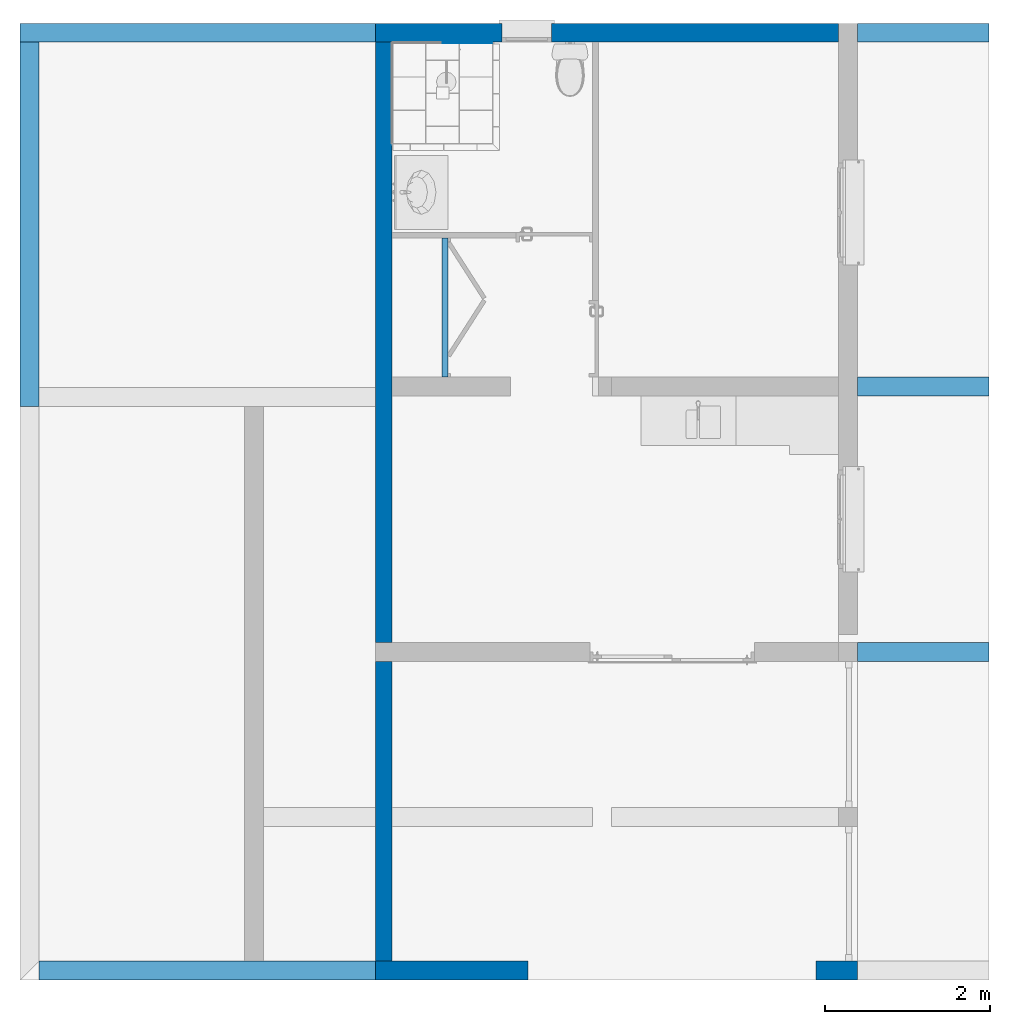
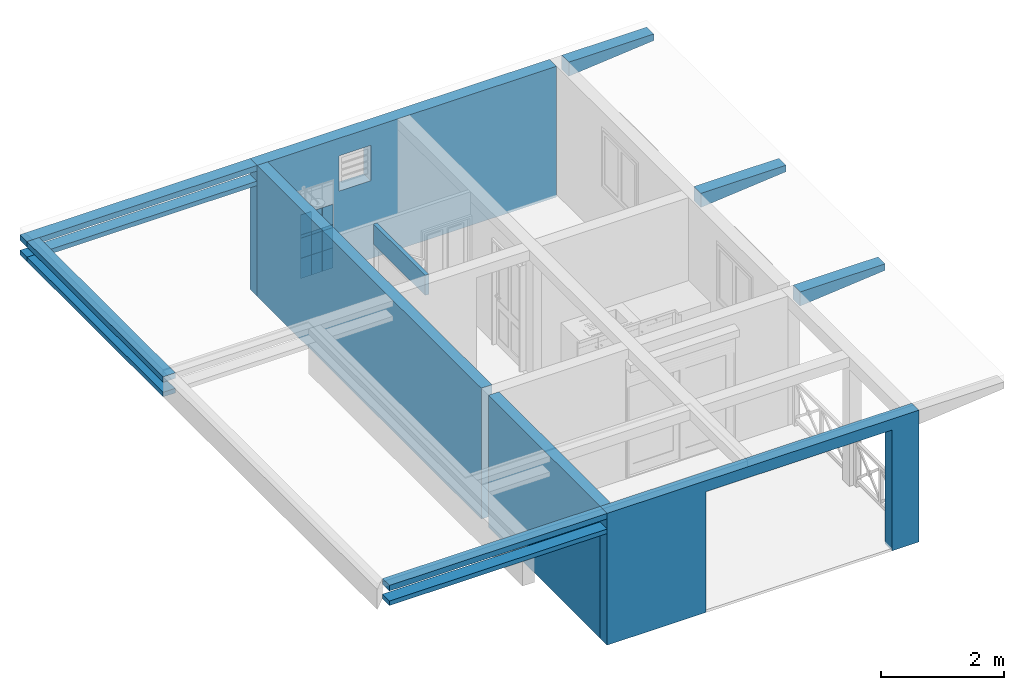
# One storey, part 5 of 13: 23 walls, 3 openings.
"""IFC2X3 building model written with IfcOpenShell, lengths in metres."""

from ifc_helpers import new_model, entity, si_unit, converted_unit, derived_unit, money_unit, direction, frame, origin_with_axes, origin_2d_with_axis, place, context, subcontext, project, spatial, polyline, rectangle, outline, extrude, boolean, clip, halfspace, faceted_brep, material, layer, layer_set, layer_usage, type_object, element, save


model = new_model("IFC2X3")

# Units and contexts
model_context = context("Model", 3, precision=1e-05, world=origin_with_axes(), true_north=direction((0.0, 1.0)))
body_context = subcontext(model_context, "Body", "Model", "MODEL_VIEW")
ifc_project = project(units=[si_unit("LENGTHUNIT", "METRE"), si_unit("AREAUNIT", "SQUARE_METRE"), si_unit("VOLUMEUNIT", "CUBIC_METRE"), converted_unit("PLANEANGLEUNIT", "DEGREE", entity("IfcPlaneAngleMeasure", 0.0174532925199), si_unit("PLANEANGLEUNIT", "RADIAN"), dimensions=[0, 0, 0, 0, 0, 0, 0]), si_unit("SOLIDANGLEUNIT", "STERADIAN"), money_unit("CHF"), converted_unit("TIMEUNIT", "Year", entity("IfcTimeMeasure", 31556926.0), si_unit("TIMEUNIT", "SECOND"), dimensions=[0, 0, 1, 0, 0, 0, 0]), si_unit("MASSUNIT", "GRAM", prefix="KILO"), si_unit("THERMODYNAMICTEMPERATUREUNIT", "DEGREE_CELSIUS"), si_unit("LUMINOUSINTENSITYUNIT", "LUMEN"), si_unit("ENERGYUNIT", "JOULE", prefix="MEGA"), derived_unit("THERMALCONDUCTANCEUNIT", [(si_unit("POWERUNIT", "WATT"), 1), (si_unit("LENGTHUNIT", "METRE"), -1), (si_unit("THERMODYNAMICTEMPERATUREUNIT", "KELVIN"), -1)]), derived_unit("SPECIFICHEATCAPACITYUNIT", [(si_unit("ENERGYUNIT", "JOULE"), 1), (si_unit("MASSUNIT", "GRAM", prefix="KILO"), -1), (si_unit("THERMODYNAMICTEMPERATUREUNIT", "KELVIN"), -1)]), derived_unit("MASSDENSITYUNIT", [(si_unit("MASSUNIT", "GRAM", prefix="KILO"), 1), (si_unit("VOLUMEUNIT", "CUBIC_METRE"), -1)])], contexts=[model_context])

# Site, building, storey
site_placement = place(None, origin_with_axes())
site = spatial("IfcSite", under=ifc_project, at=site_placement, Name="Site", CompositionType="ELEMENT")
building_placement = place(site_placement, origin_with_axes())
building = spatial("IfcBuilding", under=site, at=building_placement, Name="Bâtiment", CompositionType="ELEMENT")
storey_placement = place(building_placement, origin_with_axes())
storey = spatial("IfcBuildingStorey", under=building, at=storey_placement, Name="SOUS-SOL", CompositionType="ELEMENT", Elevation=0.0)

# Walls
ifc_material_1 = material(Name="Hachure solide 2628782308")
wall_type_1 = type_object("IfcWallType", Name="Hachure solide 2628782308 230", PredefinedType="NOTDEFINED")
wall_1_placement = place(storey_placement, frame((94.9655190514, 11.0503410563, -0.49), z_axis=(0.0, 0.0, 1.0), x_axis=(1.0, 0.0, 0.0)))
element("IfcWall", 1, at=wall_1_placement, inside=storey, type_object=wall_type_1, material=ifc_material_1, Name="MurExt-05", context=body_context, shape_type="CSG", body=[
    boolean("DIFFERENCE", clip(extrude(outline(polyline([(-0.23, 0.0), (1.598, 0.0), (1.598, 0.23), (-0.23, 0.23), (-0.23, 0.0)])), origin_with_axes(), (0.0, 0.0, 1.0), 0.3), halfspace(frame((-0.00186826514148, 0.0, 0.0199125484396), z_axis=(-0.0934132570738, 0.0, 0.995627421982), x_axis=(0.0, -1.0, 0.0)), True)), faceted_brep([(0.0, 0.0, 0.3), (0.0, 0.23, 0.3), (-0.23, 0.23, 0.3), (-0.23, 0.0, 0.3), (0.0, 0.23, 0.0), (0.0, 0.0, 0.0), (-0.23, 0.23, 0.0), (-0.23, 0.0, 0.0)], [[[0, 1, 2, 3]], [[4, 1, 0, 5]], [[1, 4, 6, 2]], [[2, 6, 7, 3]], [[5, 0, 3, 7]], [[4, 5, 7, 6]]])),
])
wall_2_placement = place(storey_placement, frame((89.1055190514, 18.8103410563, -0.59), z_axis=(0.0, 0.0, 1.0), x_axis=(-1.0, 0.0, 0.0)))
element("IfcWall", 2, at=wall_2_placement, inside=storey, type_object=wall_type_1, material=ifc_material_1, Name="MurExt-017", context=body_context, shape_type="CSG", body=[
    boolean("DIFFERENCE", extrude(outline(polyline([(0.0, 0.0), (4.322, 0.0), (4.322, 0.23), (0.0, 0.23), (0.0, 0.0)])), origin_with_axes(), (0.0, 0.0, 1.0), 0.4), faceted_brep([(4.322, 0.0, 0.29), (-9.68078524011e-08, 0.0, 0.29), (-9.68078524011e-08, 0.0, 0.09), (4.322, 0.0, 0.09), (-9.68078524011e-08, 0.23, 0.29), (4.322, 0.23, 0.29), (-9.68078524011e-08, 0.23, 0.09), (4.322, 0.23, 0.09)], [[[0, 1, 2, 3]], [[4, 1, 0, 5]], [[1, 4, 6, 2]], [[3, 2, 6, 7]], [[5, 0, 3, 7]], [[4, 5, 7, 6]]])),
])
wall_3_placement = place(storey_placement, frame((94.9655190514, 14.2803410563, -0.49), z_axis=(0.0, 0.0, 1.0), x_axis=(1.0, 0.0, 0.0)))
element("IfcWall", 3, at=wall_3_placement, inside=storey, type_object=wall_type_1, material=ifc_material_1, Name="MurExt-05", context=body_context, shape_type="CSG", body=[
    boolean("DIFFERENCE", clip(extrude(outline(polyline([(-0.23, 0.0), (1.598, 0.0), (1.598, 0.23), (-0.23, 0.23), (-0.23, 0.0)])), origin_with_axes(), (0.0, 0.0, 1.0), 0.3), halfspace(frame((-0.00186826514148, 0.0, 0.0199125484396), z_axis=(-0.0934132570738, 0.0, 0.995627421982), x_axis=(0.0, -1.0, 0.0)), True)), faceted_brep([(0.0, 0.0, 0.3), (0.0, 0.23, 0.3), (-0.23, 0.23, 0.3), (-0.23, 0.0, 0.3), (0.0, 0.23, 0.0), (0.0, 0.0, 0.0), (-0.23, 0.23, 0.0), (-0.23, 0.0, 0.0)], [[[0, 1, 2, 3]], [[4, 1, 0, 5]], [[1, 4, 6, 2]], [[2, 6, 7, 3]], [[5, 0, 3, 7]], [[4, 5, 7, 6]]])),
])

# Wall, opening
wall_4_placement = place(storey_placement, frame((89.1055190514, 7.18034105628, -2.81), z_axis=(0.0, 0.0, 1.0), x_axis=(1.0, 0.0, 0.0)))
wall_4 = element("IfcWall", 4, at=wall_4_placement, inside=storey, type_object=wall_type_1, material=ifc_material_1, Name="MurExt-004", context=body_context, shape_type="CSG", body=[
    boolean("DIFFERENCE", extrude(outline(polyline([(0.0, 0.0), (5.86, 0.0), (5.86, 0.23), (0.0, 0.23), (0.0, 0.0)])), origin_with_axes(), (0.0, 0.0, 1.0), 2.62), faceted_brep([(1.85601971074, 0.23, 0.0), (1.85601971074, 0.23, 0.05), (5.35601971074, 0.23, 0.05), (5.35601971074, 0.23, 0.0), (1.85601971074, 0.0, 0.0), (1.85601971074, 0.0, 0.05), (5.35601971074, 0.0, 0.05), (5.35601971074, 0.0, 0.0)], [[[0, 1, 2, 3]], [[1, 0, 4, 5]], [[2, 1, 5, 6]], [[3, 2, 6, 7]], [[4, 0, 3, 7]], [[5, 4, 7, 6]]])),
])
opening_1_placement = place(wall_4_placement, frame((3.60601971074, 0.0, -2.99513622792e-08), z_axis=(0.0, 0.0, 1.0), x_axis=(1.0, 0.0, 0.0)))
element("IfcOpeningElement", 5, at=opening_1_placement, cuts=wall_4, Name="Por-051", context=body_context, shape_type="SweptSolid", body=[
    extrude(rectangle(XDim=3.5, YDim=2.4, at=origin_2d_with_axis()), frame((0.0, 0.23, 1.20000002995), z_axis=(0.0, -1.0, 0.0), x_axis=(1.0, 0.0, 0.0)), (0.0, 0.0, 1.0), 0.69),
])

# Walls
wall_5_placement = place(storey_placement, frame((84.7835190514, 7.18034105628, -0.59), z_axis=(0.0, 0.0, 1.0), x_axis=(1.0, 0.0, 0.0)))
element("IfcWall", 6, at=wall_5_placement, inside=storey, type_object=wall_type_1, material=ifc_material_1, Name="MurExt-019", context=body_context, shape_type="CSG", body=[
    boolean("DIFFERENCE", extrude(outline(polyline([(0.0, 0.0), (4.322, 0.0), (4.322, 0.23), (0.0, 0.23), (0.0, 0.0)])), origin_with_axes(), (0.0, 0.0, 1.0), 0.4), faceted_brep([(0.23, 0.23, 0.4), (0.23, 0.23, 0.29), (4.32200009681, 0.23, 0.29), (4.32200009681, 0.23, 0.09), (0.23, 0.23, 0.09), (0.23, 0.23, 0.0), (0.0, 0.23, 0.0), (0.0, 0.23, 0.4), (0.23, 0.0, 0.4), (0.23, 0.0, 0.29), (4.32200009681, 0.0, 0.29), (4.32200009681, 0.0, 0.09), (0.23, 0.0, 0.09), (0.23, 0.0, 0.0), (0.0, 0.0, 0.0), (0.0, 0.0, 0.4)], [[[0, 1, 2, 3, 4, 5, 6, 7]], [[1, 0, 8, 9]], [[10, 2, 1, 9]], [[2, 10, 11, 3]], [[4, 3, 11, 12]], [[5, 4, 12, 13]], [[5, 13, 14, 6]], [[7, 6, 14, 15]], [[8, 0, 7, 15]], [[9, 8, 15, 14, 13, 12, 11, 10]]])),
])
wall_6_placement = place(storey_placement, frame((84.7835190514, 18.8103410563, -0.59), z_axis=(0.0, 0.0, 1.0), x_axis=(0.0, -1.0, 0.0)))
element("IfcWall", 7, at=wall_6_placement, inside=storey, type_object=wall_type_1, material=ifc_material_1, Name="MurExt-018", context=body_context, shape_type="CSG", body=[
    boolean("DIFFERENCE", extrude(outline(polyline([(0.0, 0.0), (4.66, 0.0), (4.66, 0.23), (0.0, 0.23), (0.0, 0.0)])), origin_with_axes(), (0.0, 0.0, 1.0), 0.4), faceted_brep([(0.23, 0.0, 0.4), (0.23, 0.23, 0.4), (0.0, 0.23, 0.4), (0.0, 0.0, 0.4), (0.23, 0.23, 0.29), (0.23, 0.0, 0.29), (4.66, 0.23, 0.29), (4.66, 0.23, 0.09), (0.23, 0.23, 0.09), (0.23, 0.23, 0.0), (0.0, 0.23, 0.0), (0.0, 0.0, 0.0), (0.23, 0.0, 0.0), (0.23, 0.0, 0.09), (4.66, 0.0, 0.09), (4.66, 0.0, 0.29)], [[[0, 1, 2, 3]], [[4, 1, 0, 5]], [[4, 6, 7, 8, 9, 10, 2, 1]], [[2, 10, 11, 3]], [[5, 0, 3, 11, 12, 13, 14, 15]], [[6, 4, 5, 15]], [[6, 15, 14, 7]], [[8, 7, 14, 13]], [[9, 8, 13, 12]], [[9, 12, 11, 10]]])),
])
wall_7_placement = place(storey_placement, frame((94.9655190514, 18.5803410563, -0.49), z_axis=(0.0, 0.0, 1.0), x_axis=(1.0, 0.0, 0.0)))
element("IfcWall", 8, at=wall_7_placement, inside=storey, type_object=wall_type_1, material=ifc_material_1, Name="MurExt-05", context=body_context, shape_type="CSG", body=[
    boolean("DIFFERENCE", clip(extrude(outline(polyline([(-0.23, 0.0), (1.598, 0.0), (1.598, 0.23), (-0.23, 0.23), (-0.23, 0.0)])), origin_with_axes(), (0.0, 0.0, 1.0), 0.3), halfspace(frame((-0.00186826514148, 0.0, 0.0199125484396), z_axis=(-0.0934132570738, 0.0, 0.995627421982), x_axis=(0.0, -1.0, 0.0)), True)), faceted_brep([(0.0, 0.0, 0.3), (0.0, 0.23, 0.3), (-0.23, 0.23, 0.3), (-0.23, 0.0, 0.3), (0.0, 0.23, 0.0), (0.0, 0.0, 0.0), (-0.23, 0.23, 0.0), (-0.23, 0.0, 0.0)], [[[0, 1, 2, 3]], [[4, 1, 0, 5]], [[1, 4, 6, 2]], [[2, 6, 7, 3]], [[5, 0, 3, 7]], [[4, 5, 7, 6]]])),
])

# Wall, opening
wall_8_placement = place(storey_placement, frame((94.9655190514, 18.8103410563, -2.79), z_axis=(0.0, 0.0, 1.0), x_axis=(-1.0, 0.0, 0.0)))
wall_8 = element("IfcWall", 9, at=wall_8_placement, inside=storey, type_object=wall_type_1, material=ifc_material_1, Name="MurExt-006", context=body_context, shape_type="CSG", body=[
    boolean("DIFFERENCE", extrude(outline(polyline([(0.0, 0.0), (5.86, 0.0), (5.86, 0.23), (0.0, 0.23), (0.0, 0.0)])), origin_with_axes(), (0.0, 0.0, 1.0), 2.6), faceted_brep([(0.23, 0.0, 0.0), (0.23, 0.0, 2.6), (0.0, 0.0, 2.6), (0.0, 0.0, 0.0), (0.23, 0.23, 2.6), (0.23, 0.23, 0.0), (0.0, 0.23, 2.6), (0.0, 0.23, 0.0)], [[[0, 1, 2, 3]], [[4, 1, 0, 5]], [[1, 4, 6, 2]], [[6, 7, 3, 2]], [[5, 0, 3, 7]], [[4, 5, 7, 6]]])),
])
opening_2_placement = place(wall_8_placement, frame((4.0221695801, 0.0, 1.65), z_axis=(0.0, 0.0, 1.0), x_axis=(1.0, 0.0, 0.0)))
element("IfcOpeningElement", 10, at=opening_2_placement, cuts=wall_8, Name="Fen-032", context=body_context, shape_type="SweptSolid", body=[
    extrude(outline(polyline([(0.3, 0.1), (-0.3, 0.1), (-0.3, -0.6), (0.3, -0.6), (0.3, 0.1)])), frame((0.0, 0.23, 0.0), z_axis=(0.0, 1.0, 0.0), x_axis=(1.0, 0.0, 0.0)), (0.0, 0.0, -1.0), 0.46),
])

wall_type_2 = type_object("IfcWallType", Name="Hachure solide 2628782308 70", PredefinedType="NOTDEFINED")
wall_9_placement = place(storey_placement, frame((89.9855190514, 16.2675249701, -2.74), z_axis=(0.0, 0.0, 1.0), x_axis=(0.0, -1.0, 0.0)))
wall_9 = element("IfcWall", 11, at=wall_9_placement, inside=storey, type_object=wall_type_2, material=ifc_material_1, Name="MurExt-004", context=body_context, shape_type="CSG", body=[
    boolean("DIFFERENCE", extrude(outline(polyline([(0.0, -0.07), (1.7552722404, -0.07), (1.7552722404, 0.0), (0.0, 0.0), (0.0, -0.07)])), origin_with_axes(), (0.0, 0.0, 1.0), 2.55), faceted_brep([(0.07, -0.07, 2.55), (0.07, 0.0, 2.55), (0.0, 0.0, 2.55), (0.0, -0.07, 2.55), (0.07, 0.0, 0.0), (0.07, -0.07, 0.0), (0.0, 0.0, 0.0), (0.0, -0.07, 0.0)], [[[0, 1, 2, 3]], [[4, 1, 0, 5]], [[1, 4, 6, 2]], [[2, 6, 7, 3]], [[5, 0, 3, 7]], [[4, 5, 7, 6]]])),
])
opening_3_placement = place(wall_9_placement, frame((0.912636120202, 0.0, 0.05), z_axis=(0.0, 0.0, 1.0), x_axis=(1.0, 0.0, 0.0)))
element("IfcOpeningElement", 12, at=opening_3_placement, cuts=wall_9, Name="Por-056", context=body_context, shape_type="SweptSolid", body=[
    extrude(rectangle(XDim=1.6852722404, YDim=2.1, at=origin_2d_with_axis()), frame((0.0, 0.07, 1.05), z_axis=(0.0, 1.0, 0.0), x_axis=(-1.0, 0.0, 0.0)), (0.0, 0.0, -1.0), 0.21),
])

# Walls
wall_type_3 = type_object("IfcWallType", Name="Hachure solide 2628782308 200", PredefinedType="NOTDEFINED")
wall_10_placement = place(storey_placement, frame((89.1055190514, 11.0503410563, -2.81), z_axis=(0.0, 0.0, 1.0), x_axis=(0.0, -1.0, 0.0)))
element("IfcWall", 13, at=wall_10_placement, inside=storey, type_object=wall_type_3, material=ifc_material_1, Name="MurExt-011", context=body_context, shape_type="CSG", body=[
    boolean("DIFFERENCE", boolean("DIFFERENCE", extrude(outline(polyline([(-0.23, 0.0), (3.87, 0.0), (3.87, 0.2), (-0.23, 0.2), (-0.23, 0.0)])), origin_with_axes(), (0.0, 0.0, 1.0), 2.62), faceted_brep([(3.64, 0.2, 0.0), (3.64, 0.2, 2.62), (3.87, 0.2, 2.62), (3.87, 0.2, 0.0), (3.64, 0.0, 2.62), (3.64, 0.0, 0.0), (3.64, 0.0, 2.22), (3.87, 0.0, 2.62), (3.87, 0.0, 0.0)], [[[0, 1, 2, 3]], [[4, 1, 0, 5, 6]], [[1, 4, 7, 2]], [[7, 8, 3, 2]], [[5, 0, 3, 8]], [[6, 5, 8, 7, 4]]])), faceted_brep([(0.0, 0.0, 2.61999995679), (0.0, 0.2, 2.61999995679), (-0.23, 0.2, 2.62), (-0.23, 0.0, 2.62), (0.0, 0.2, 0.02), (0.0, 0.0, 0.02), (0.0, 0.0, 0.0), (0.0, 0.2, 0.0), (-0.23, 0.2, 0.0), (-0.23, 0.0, 0.0)], [[[0, 1, 2, 3]], [[4, 1, 0, 5, 6, 7]], [[4, 7, 8, 2, 1]], [[2, 8, 9, 3]], [[5, 0, 3, 9, 6]], [[7, 6, 9, 8]]])),
])
wall_11_placement = place(storey_placement, frame((89.1055190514, 18.8103410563, -2.79), z_axis=(0.0, 0.0, 1.0), x_axis=(0.0, -1.0, 0.0)))
element("IfcWall", 14, at=wall_11_placement, inside=storey, type_object=wall_type_3, material=ifc_material_1, Name="MurExt-003", context=body_context, shape_type="CSG", body=[
    boolean("DIFFERENCE", boolean("DIFFERENCE", extrude(outline(polyline([(0.0, 0.0), (7.76, 0.0), (7.76, 0.2), (0.0, 0.2), (0.0, 0.0)])), origin_with_axes(), (0.0, 0.0, 1.0), 2.6), faceted_brep([(7.53, 0.2, 0.0), (7.53, 0.2, 2.6), (7.76, 0.2, 2.6), (7.76, 0.2, 0.0), (7.53, 0.0, 2.6), (7.53, 0.0, 0.0), (7.76, 0.0, 2.6), (7.76, 0.0, 0.0)], [[[0, 1, 2, 3]], [[4, 1, 0, 5]], [[1, 4, 6, 2]], [[6, 7, 3, 2]], [[5, 0, 3, 7]], [[4, 5, 7, 6]]])), faceted_brep([(0.23, 0.0, 2.6), (0.23, 0.2, 2.6), (0.0, 0.2, 2.6), (0.0, 0.0, 2.6), (0.23, 0.2, 0.0), (0.23, 0.0, 2.2), (0.23, 0.0, 0.0), (0.0, 0.2, 0.0), (0.0, 0.0, 0.0)], [[[0, 1, 2, 3]], [[4, 1, 0, 5, 6]], [[1, 4, 7, 2]], [[2, 7, 8, 3]], [[5, 0, 3, 8, 6]], [[4, 6, 8, 7]]])),
])
ifc_material_2 = material(Name="MUR VILLA")
ifc_layer = layer(ifc_material_2, 0.01, ventilated="UNKNOWN")
ifc_layer_set = layer_set([ifc_layer], Name="MUR VILLA 0.01")
ifc_layer_usage_1 = layer_usage(ifc_layer_set, "AXIS2", "POSITIVE", 0.0)
wall_type_4 = type_object("IfcWallType", Name="MUR VILLA 10", PredefinedType="NOTDEFINED")
wall_12_placement = place(storey_placement, frame((90.1255190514, 18.57034355, -1.85278303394), z_axis=(0.0, 0.0, 1.0), x_axis=(1.0, 0.0, 0.0)))
element("IfcWallStandardCase", 15, at=wall_12_placement, inside=storey, type_object=wall_type_4, material=ifc_layer_usage_1, Name="Mur-020", context=body_context, shape_type="SweptSolid", body=[
    extrude(outline(polyline([(0.0, 0.0), (0.199, 0.0), (0.199, 0.01), (0.0, 0.01), (0.0, 0.0)])), origin_with_axes(), (0.0, 0.0, 1.0), 0.4),
])
ifc_layer_usage_2 = layer_usage(ifc_layer_set, "AXIS2", "POSITIVE", 0.0)
wall_13_placement = place(storey_placement, frame((90.1255190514, 18.5703410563, -1.914), z_axis=(0.0, 0.0, 1.0), x_axis=(1.0, 0.0, 0.0)))
element("IfcWallStandardCase", 16, at=wall_13_placement, inside=storey, type_object=wall_type_4, material=ifc_layer_usage_2, Name="Mur-020", context=body_context, shape_type="SweptSolid", body=[
    extrude(outline(polyline([(0.0, 0.0), (0.199, 0.0), (0.199, 0.01), (0.0, 0.01), (0.0, 0.0)])), origin_with_axes(), (0.0, 0.0, 1.0), 0.06),
])
ifc_layer_usage_3 = layer_usage(ifc_layer_set, "AXIS2", "POSITIVE", 0.0)
wall_14_placement = place(storey_placement, frame((89.9215190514, 18.5703410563, -1.914), z_axis=(0.0, 0.0, 1.0), x_axis=(1.0, 0.0, 0.0)))
element("IfcWallStandardCase", 17, at=wall_14_placement, inside=storey, type_object=wall_type_4, material=ifc_layer_usage_3, Name="Mur-020", context=body_context, shape_type="SweptSolid", body=[
    extrude(outline(polyline([(0.0, 0.0), (0.199, 0.0), (0.199, 0.01), (0.0, 0.01), (0.0, 0.0)])), origin_with_axes(), (0.0, 0.0, 1.0), 0.06),
])
ifc_layer_usage_4 = layer_usage(ifc_layer_set, "AXIS2", "POSITIVE", 0.0)
wall_15_placement = place(storey_placement, frame((90.3265190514, 18.5703410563, -1.914), z_axis=(0.0, 0.0, 1.0), x_axis=(1.0, 0.0, 0.0)))
element("IfcWallStandardCase", 18, at=wall_15_placement, inside=storey, type_object=wall_type_4, material=ifc_layer_usage_4, Name="Mur-020", context=body_context, shape_type="SweptSolid", body=[
    extrude(outline(polyline([(0.0, 0.0), (0.199, 0.0), (0.199, 0.01), (0.0, 0.01), (0.0, 0.0)])), origin_with_axes(), (0.0, 0.0, 1.0), 0.06),
])
ifc_layer_usage_5 = layer_usage(ifc_layer_set, "AXIS2", "POSITIVE", 0.0)
wall_16_placement = place(storey_placement, frame((89.9215190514, 18.57034355, -1.85278303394), z_axis=(0.0, 0.0, 1.0), x_axis=(1.0, 0.0, 0.0)))
element("IfcWallStandardCase", 19, at=wall_16_placement, inside=storey, type_object=wall_type_4, material=ifc_layer_usage_5, Name="Mur-020", context=body_context, shape_type="SweptSolid", body=[
    extrude(outline(polyline([(0.0, 0.0), (0.199, 0.0), (0.199, 0.01), (0.0, 0.01), (0.0, 0.0)])), origin_with_axes(), (0.0, 0.0, 1.0), 0.4),
])
ifc_layer_usage_6 = layer_usage(ifc_layer_set, "AXIS2", "POSITIVE", 0.0)
wall_17_placement = place(storey_placement, frame((90.3265190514, 18.57034355, -1.85278303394), z_axis=(0.0, 0.0, 1.0), x_axis=(1.0, 0.0, 0.0)))
element("IfcWallStandardCase", 20, at=wall_17_placement, inside=storey, type_object=wall_type_4, material=ifc_layer_usage_6, Name="Mur-020", context=body_context, shape_type="SweptSolid", body=[
    extrude(outline(polyline([(0.0, 0.0), (0.199, 0.0), (0.199, 0.01), (0.0, 0.01), (0.0, 0.0)])), origin_with_axes(), (0.0, 0.0, 1.0), 0.4),
])
ifc_layer_usage_7 = layer_usage(ifc_layer_set, "AXIS2", "POSITIVE", 0.0)
wall_18_placement = place(storey_placement, frame((89.9215190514, 18.57034355, -2.718), z_axis=(0.0, 0.0, 1.0), x_axis=(1.0, 0.0, 0.0)))
element("IfcWallStandardCase", 21, at=wall_18_placement, inside=storey, type_object=wall_type_4, material=ifc_layer_usage_7, Name="Mur-020", context=body_context, shape_type="SweptSolid", body=[
    extrude(outline(polyline([(0.0, 0.0), (0.199, 0.0), (0.199, 0.01), (0.0, 0.01), (0.0, 0.0)])), origin_with_axes(), (0.0, 0.0, 1.0), 0.4),
])
ifc_layer_usage_8 = layer_usage(ifc_layer_set, "AXIS2", "POSITIVE", 0.0)
wall_19_placement = place(storey_placement, frame((90.3265190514, 18.57034355, -2.718), z_axis=(0.0, 0.0, 1.0), x_axis=(1.0, 0.0, 0.0)))
element("IfcWallStandardCase", 22, at=wall_19_placement, inside=storey, type_object=wall_type_4, material=ifc_layer_usage_8, Name="Mur-020", context=body_context, shape_type="SweptSolid", body=[
    extrude(outline(polyline([(0.0, 0.0), (0.199, 0.0), (0.199, 0.01), (0.0, 0.01), (0.0, 0.0)])), origin_with_axes(), (0.0, 0.0, 1.0), 0.4),
])
ifc_layer_usage_9 = layer_usage(ifc_layer_set, "AXIS2", "POSITIVE", 0.0)
wall_20_placement = place(storey_placement, frame((90.1255190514, 18.57034355, -2.718), z_axis=(0.0, 0.0, 1.0), x_axis=(1.0, 0.0, 0.0)))
element("IfcWallStandardCase", 23, at=wall_20_placement, inside=storey, type_object=wall_type_4, material=ifc_layer_usage_9, Name="Mur-020", context=body_context, shape_type="SweptSolid", body=[
    extrude(outline(polyline([(0.0, 0.0), (0.199, 0.0), (0.199, 0.01), (0.0, 0.01), (0.0, 0.0)])), origin_with_axes(), (0.0, 0.0, 1.0), 0.4),
])
ifc_layer_usage_10 = layer_usage(ifc_layer_set, "AXIS2", "POSITIVE", 0.0)
wall_21_placement = place(storey_placement, frame((89.9215190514, 18.57034355, -2.316), z_axis=(0.0, 0.0, 1.0), x_axis=(1.0, 0.0, 0.0)))
element("IfcWallStandardCase", 24, at=wall_21_placement, inside=storey, type_object=wall_type_4, material=ifc_layer_usage_10, Name="Mur-020", context=body_context, shape_type="SweptSolid", body=[
    extrude(outline(polyline([(0.0, 0.0), (0.199, 0.0), (0.199, 0.01), (0.0, 0.01), (0.0, 0.0)])), origin_with_axes(), (0.0, 0.0, 1.0), 0.4),
])
ifc_layer_usage_11 = layer_usage(ifc_layer_set, "AXIS2", "POSITIVE", 0.0)
wall_22_placement = place(storey_placement, frame((90.3265190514, 18.57034355, -2.316), z_axis=(0.0, 0.0, 1.0), x_axis=(1.0, 0.0, 0.0)))
element("IfcWallStandardCase", 25, at=wall_22_placement, inside=storey, type_object=wall_type_4, material=ifc_layer_usage_11, Name="Mur-020", context=body_context, shape_type="SweptSolid", body=[
    extrude(outline(polyline([(0.0, 0.0), (0.199, 0.0), (0.199, 0.01), (0.0, 0.01), (0.0, 0.0)])), origin_with_axes(), (0.0, 0.0, 1.0), 0.4),
])
ifc_layer_usage_12 = layer_usage(ifc_layer_set, "AXIS2", "POSITIVE", 0.0)
wall_23_placement = place(storey_placement, frame((90.1255190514, 18.57034355, -2.316), z_axis=(0.0, 0.0, 1.0), x_axis=(1.0, 0.0, 0.0)))
element("IfcWallStandardCase", 26, at=wall_23_placement, inside=storey, type_object=wall_type_4, material=ifc_layer_usage_12, Name="Mur-020", context=body_context, shape_type="SweptSolid", body=[
    extrude(outline(polyline([(0.0, 0.0), (0.199, 0.0), (0.199, 0.01), (0.0, 0.01), (0.0, 0.0)])), origin_with_axes(), (0.0, 0.0, 1.0), 0.4),
])

save(model, "model.ifc")
